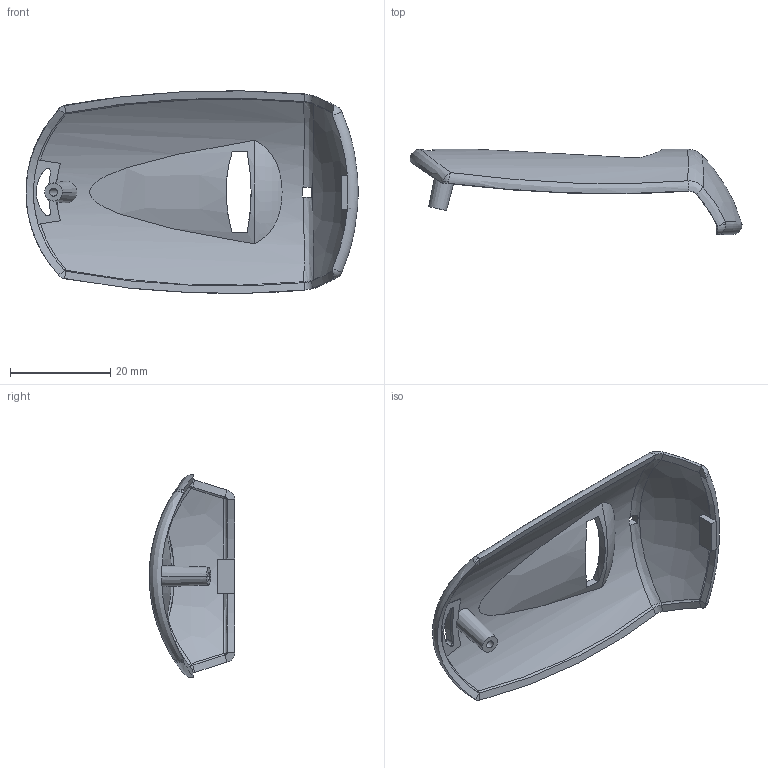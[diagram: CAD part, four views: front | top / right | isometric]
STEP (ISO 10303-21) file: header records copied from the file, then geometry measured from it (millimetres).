
FILE_DESCRIPTION (( 'STEP AP214' ), '1' );
FILE_NAME ('Tapa PP102.STEP', '2018-06-05T09:01:13', ( 'aaa' ), ( '' ), 'SwSTEP 2.0', 'SolidWorks 2013', '' );
FILE_SCHEMA (( 'AUTOMOTIVE_DESIGN' ));
Length unit declared in the file: millimetre
Products named in the file (1): Tapa PP102
Bounding box: 66.12 x 17 x 40.29 mm (x, y, z)
Volume: 4348.2 mm3; surface area: 6342.3 mm2
Topology: 3 solids, 3 shells, 98 faces, 233 edges, 138 vertices
Faces by surface type: plane 24, bspline 24, cylinder 23, sphere 16, torus 7, cone 4
Entity records: 4586 total; most frequent: CARTESIAN_POINT 2485, ORIENTED_EDGE 458, DIRECTION 375, EDGE_CURVE 229, AXIS2_PLACEMENT_3D 160, VERTEX_POINT 138, EDGE_LOOP 107, FACE_OUTER_BOUND 98
